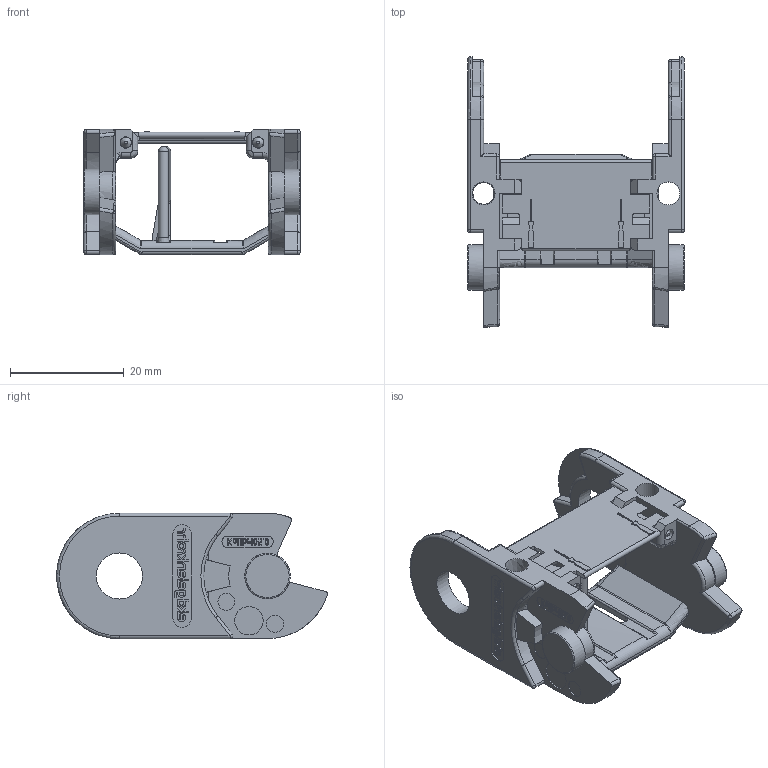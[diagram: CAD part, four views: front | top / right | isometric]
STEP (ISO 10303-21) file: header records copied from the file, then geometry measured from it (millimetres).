
FILE_DESCRIPTION((''),'2;1');
FILE_NAME('C:\Uebbing\PARAMETERKETTEN\KOLIBRI\Kol_22_038_0\Kol_22_038_0.stp','2012-02-06T14:14:08',('Uebbing'),(''),'Autodesk Inventor 10','Autodesk Inventor 10','');
FILE_SCHEMA(('AUTOMOTIVE_DESIGN { 1 0 10303 214 1 1 1 1 }'));
Length unit declared in the file: millimetre
Products named in the file (4): Kol_22_038_0; Kol_22_038_0_Lasche; Kol_22_038_0_PZ_Stecksteg; Kol_22_038_0_Klappsteg
Assembly tree (3 placements, depth 2):
  Kol_22_038_0
    Kol_22_038_0_Lasche
    Kol_22_038_0_PZ_Stecksteg
    Kol_22_038_0_Klappsteg
Bounding box: 38 x 47.5 x 22 mm (x, y, z)
Volume: 7345.9 mm3; surface area: 8319.2 mm2
Topology: 3 solids, 3 shells, 1415 faces, 3771 edges, 2445 vertices
Faces by surface type: bspline 756, plane 428, cylinder 185, torus 27, sphere 11, cone 8
Full cylindrical faces by diameter (mm): 0.804 x1, 1.412 x1, 1.9 x4, 2 x2, 3 x4, 4 x1, 5 x1, 8 x1, 8.1 x1
Entity records: 51104 total; most frequent: CARTESIAN_POINT 19443, ORIENTED_EDGE 7420, DIRECTION 4919, EDGE_CURVE 3710, VERTEX_POINT 2435, VECTOR 2193, LINE 2193, EDGE_LOOP 1569
